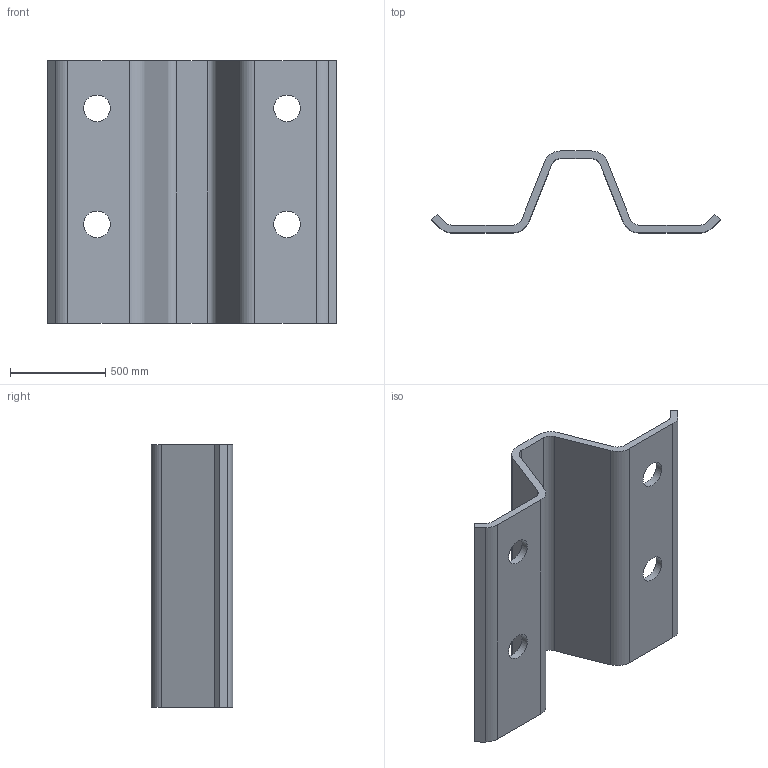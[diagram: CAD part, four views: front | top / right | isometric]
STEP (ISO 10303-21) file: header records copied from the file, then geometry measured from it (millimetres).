
FILE_DESCRIPTION(/* description */ (''),/* implementation_level */ '2;1');
FILE_NAME(/* name */ 'ZC155.stp',/* time_stamp */ '2024-10-31T15:16:57+01:00',/* author */ ('woriedl'),/* organization */ (''),/* preprocessor_version */ 'ST-DEVELOPER v20',/* originating_system */ 'AutoCAD Mechanical',/* authorisation */ '');
FILE_SCHEMA (('AUTOMOTIVE_DESIGN { 1 0 10303 214 3 1 1 }'));
Length unit declared in the file: centimetre
Products named in the file (1): Product
Bounding box: 1517.2 x 430 x 1380 mm (x, y, z)
Volume: 108943946.7 mm3; surface area: 5789428.4 mm2
Topology: 1 solids, 1 shells, 34 faces, 96 edges, 64 vertices
Faces by surface type: plane 18, cylinder 16
Full cylindrical faces by diameter (mm): 140 x4
Entity records: 1151 total; most frequent: DIRECTION 198, CARTESIAN_POINT 195, ORIENTED_EDGE 192, EDGE_CURVE 96, AXIS2_PLACEMENT_3D 67, LINE 64, VECTOR 64, VERTEX_POINT 64
